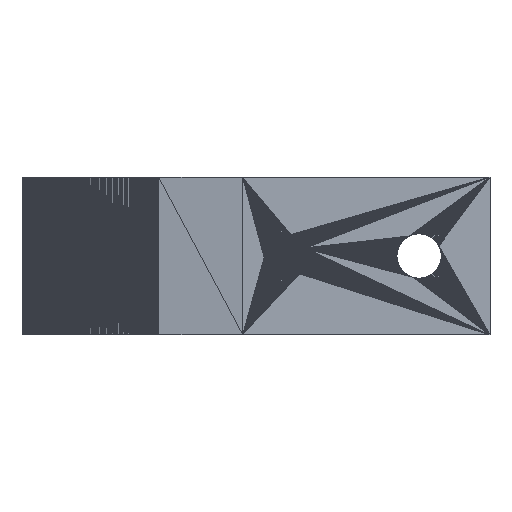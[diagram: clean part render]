
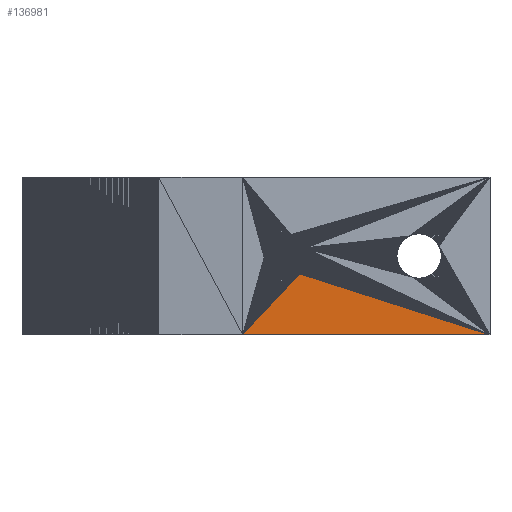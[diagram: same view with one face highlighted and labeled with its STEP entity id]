
A CAD part, left-side view. The second image highlights one B-rep face of the part: STEP entity #136981.
In plain terms, the highlighted planar face has unit normal (-1, 0, 0).
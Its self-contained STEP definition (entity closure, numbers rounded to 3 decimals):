
#4597 = VECTOR ( 'NONE', #180987, 1. ) ;
#8777 = CARTESIAN_POINT ( 'NONE',  ( 9.648, 30.233, 0. ) ) ;
#13090 = ORIENTED_EDGE ( 'NONE', *, *, #232333, .F. ) ;
#13541 = LINE ( 'NONE', #153414, #4597 ) ;
#17223 = VERTEX_POINT ( 'NONE', #356030 ) ;
#44426 = AXIS2_PLACEMENT_3D ( 'NONE', #315194, #112467, #343955 ) ;
#96918 = CARTESIAN_POINT ( 'NONE',  ( 9.648, 23.827, 6.89 ) ) ;
#97162 = EDGE_CURVE ( 'NONE', #99377, #17223, #13541, .T. ) ;
#99377 = VERTEX_POINT ( 'NONE', #96918 ) ;
#112467 = DIRECTION ( 'NONE',  ( 1., 0., 0. ) ) ;
#113574 = LINE ( 'NONE', #8777, #265833 ) ;
#115907 = EDGE_LOOP ( 'NONE', ( #189461, #13090, #262939 ) ) ;
#136981 = ADVANCED_FACE ( 'NONE', ( #309216 ), #255071, .F. ) ;
#153414 = CARTESIAN_POINT ( 'NONE',  ( 9.648, 23.827, 6.89 ) ) ;
#180987 = DIRECTION ( 'NONE',  ( 0., 0.681, -0.732 ) ) ;
#182028 = CARTESIAN_POINT ( 'NONE',  ( 9.648, 23.827, 6.89 ) ) ;
#189461 = ORIENTED_EDGE ( 'NONE', *, *, #352166, .T. ) ;
#208411 = DIRECTION ( 'NONE',  ( 0., -0.952, -0.305 ) ) ;
#222735 = VECTOR ( 'NONE', #208411, 1. ) ;
#232333 = EDGE_CURVE ( 'NONE', #99377, #245123, #298781, .T. ) ;
#245123 = VERTEX_POINT ( 'NONE', #330606 ) ;
#255071 = PLANE ( 'NONE',  #44426 ) ;
#262939 = ORIENTED_EDGE ( 'NONE', *, *, #97162, .T. ) ;
#265833 = VECTOR ( 'NONE', #291706, 1. ) ;
#291706 = DIRECTION ( 'NONE',  ( 0., -1., 0. ) ) ;
#298781 = LINE ( 'NONE', #182028, #222735 ) ;
#309216 = FACE_OUTER_BOUND ( 'NONE', #115907, .T. ) ;
#315194 = CARTESIAN_POINT ( 'NONE',  ( 9.648, 0., 0. ) ) ;
#330606 = CARTESIAN_POINT ( 'NONE',  ( 9.648, 2.314, 0. ) ) ;
#343955 = DIRECTION ( 'NONE',  ( 0., 0., -1. ) ) ;
#352166 = EDGE_CURVE ( 'NONE', #17223, #245123, #113574, .T. ) ;
#356030 = CARTESIAN_POINT ( 'NONE',  ( 9.648, 30.233, 0. ) ) ;
